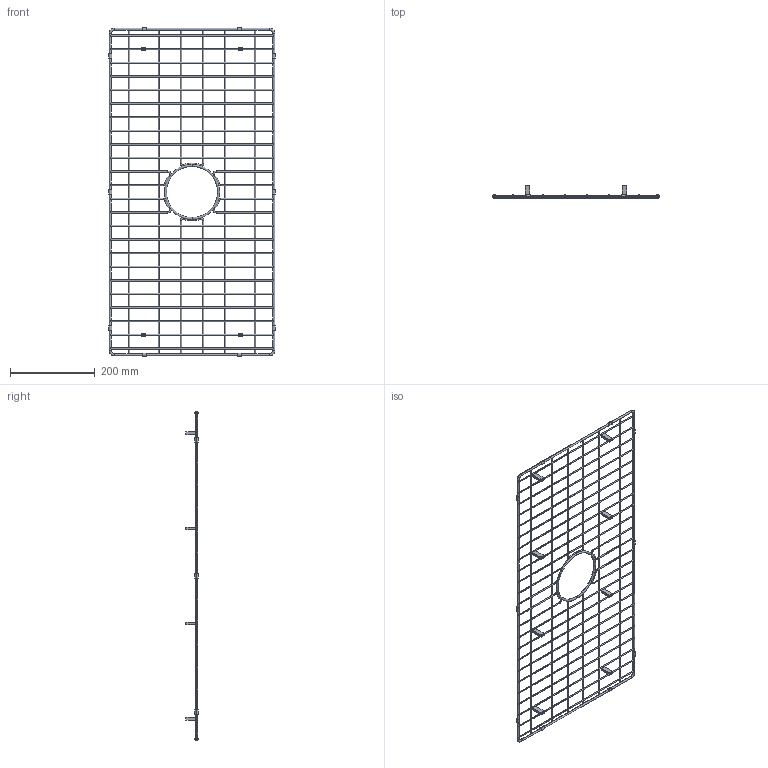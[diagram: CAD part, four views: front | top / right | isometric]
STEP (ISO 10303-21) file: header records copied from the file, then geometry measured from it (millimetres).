
FILE_DESCRIPTION (( 'STEP AP214' ), '1' );
FILE_NAME ('KG33.STEP', '2020-10-28T04:34:36', ( '' ), ( '' ), 'SwSTEP 2.0', 'SolidWorks 2020', '' );
FILE_SCHEMA (( 'AUTOMOTIVE_DESIGN' ));
Length unit declared in the file: millimetre
Products named in the file (1): KG33
Bounding box: 392.49 x 28.75 x 773.5 mm (x, y, z)
Volume: 161876 mm3; surface area: 179095.9 mm2
Topology: 19 solids, 19 shells, 346 faces, 1369 edges, 991 vertices
Faces by surface type: cylinder 168, plane 136, torus 42
Entity records: 29114 total; most frequent: CARTESIAN_POINT 13777, ORIENTED_EDGE 2692, DIRECTION 1818, EDGE_CURVE 1346, VERTEX_POINT 968, AXIS2_PLACEMENT_3D 705, EDGE_LOOP 642, B_SPLINE_CURVE_WITH_KNOTS 580
